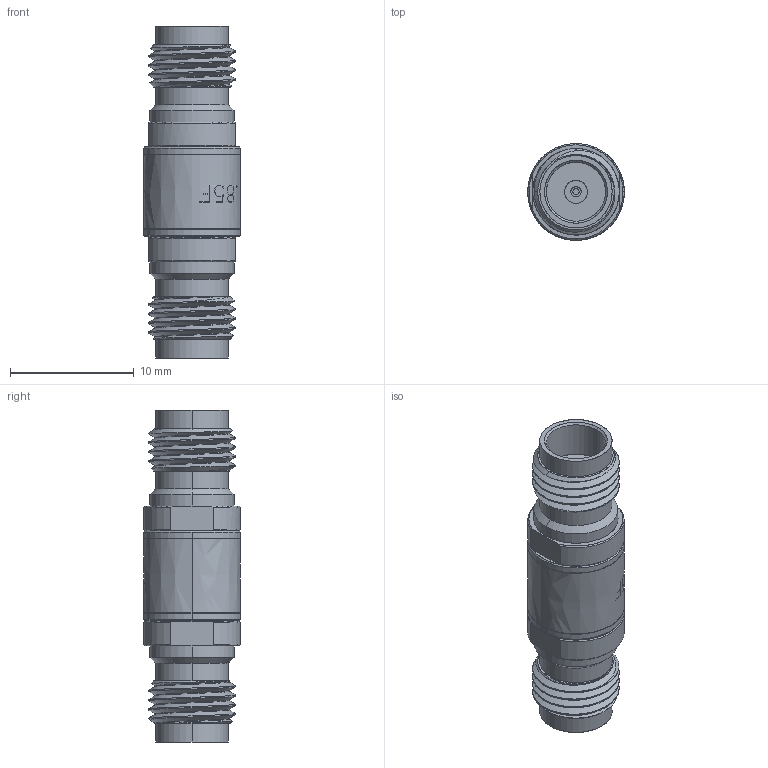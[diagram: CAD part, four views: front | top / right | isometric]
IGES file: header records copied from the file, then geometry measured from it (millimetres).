
Start section: SolidWorks IGES file using analytic representation for surfaces
Global section: file name: C:\Users\sculpepper\Desktop\8128000K001-803-C\8128000K001-803-Cigs.IGS; native system: SolidWorks 2019; preprocessor: SolidWorks 2019; author: sculpepper; date: 201029.150703; units: inch
Bounding box: 7.8 x 7.8 x 26.8 mm (x, y, z)
Surface area: 928.9 mm2 (no closed solid volume)
Topology: 0 solids, 0 shells, 377 faces, 3594 edges, 3594 vertices
Faces by surface type: bspline 269, revolution 108
